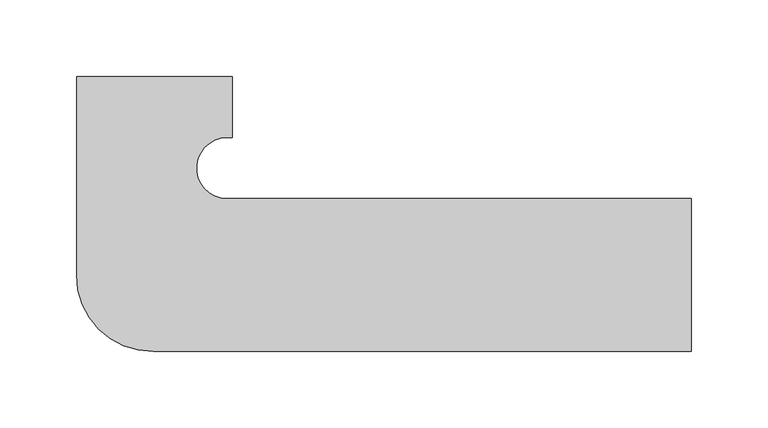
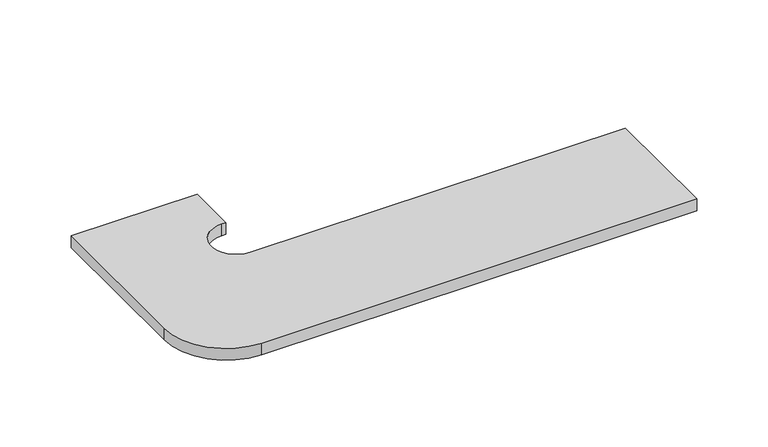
"""IFC4 building model written with IfcOpenShell, lengths in millimetres: proxy geometry, EXAGRES - Zanquin ML 39.5x17.5 : Exagres_Orobico_Gris_Zanquin_ML_Der."""

from ifc_helpers import new_model, si_unit, point, frame_2d, origin, origin_with_axes, place, context, project, spatial, polyline, circle_curve, trimmed, segment, composite_curve, outline, extrude, source, transform, mapped, element, save


def generic_models_9a913470(model_context):
    return source(origin(), model_context, "Body", "SweptSolid", [
        extrude(outline(composite_curve([segment(polyline([(303.5, 0.0), (303.5, -100.0), (-48.4135674, -100.0)]), True, "CONTINUOUS"), segment(trimmed(circle_curve(frame_2d((-48.4135674, -50.0)), 50.0), [point((-48.4135674, -100.0))], [point((-98.4135674, -50.0))], False, "CARTESIAN"), True, "CONTINUOUS"), segment(polyline([(-98.4135674, -50.0), (-98.4135674, 80.0), (3.5, 80.0), (3.5, 40.0), (0.0, 40.0)]), True, "CONTINUOUS"), segment(trimmed(circle_curve(frame_2d((0.0, 20.0)), 20.0), [point((0.0, 40.0))], [point((0.0, 0.0))], True, "CARTESIAN"), True, "CONTINUOUS"), segment(polyline([(0.0, 0.0), (303.5, 0.0)]), True, "CONTINUOUS")], self_intersect=False)), origin_with_axes(), (0.0, 0.0, 1.0), 10.0),
    ])


if __name__ == "__main__":
    model = new_model("IFC4")
    model_context = context("Model", 3, world=origin())
    ifc_project = project(units=[si_unit("LENGTHUNIT", "METRE", prefix="MILLI")], contexts=[model_context])
    site = spatial("IfcSite", under=ifc_project)
    building = spatial("IfcBuilding", under=site)
    placement = place(None, origin())
    generic_models_shape = generic_models_9a913470(model_context)
    element("IfcBuildingElementProxy", 1, Name="EXAGRES - Zanquin ML 39.5x17.5 : Exagres_Orobico_Gris_Zanquin_ML_Der", ObjectType="EXAGRES - Zanquin ML 39.5x17.5 : Exagres_Orobico_Gris_Zanquin_ML_Der", at=placement, inside=building, context=model_context, shape_type="MappedRepresentation", body=[
        mapped(generic_models_shape, transform((0.0, 0.0, 0.0), x_axis=(1.0, 0.0, 0.0), y_axis=(0.0, 1.0, 0.0), z_axis=(0.0, 0.0, 1.0))),
    ])
    save(model, "model.ifc")
